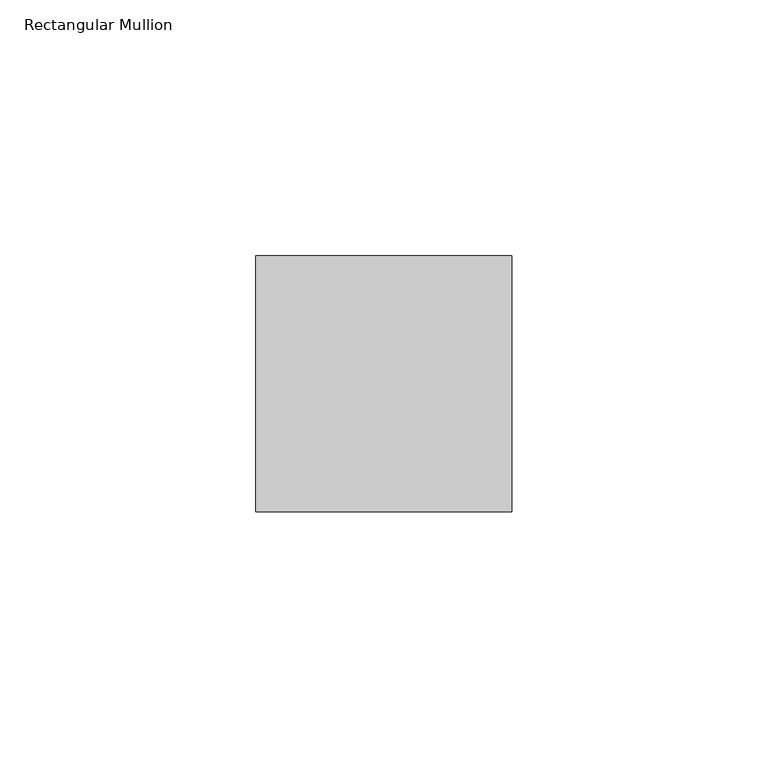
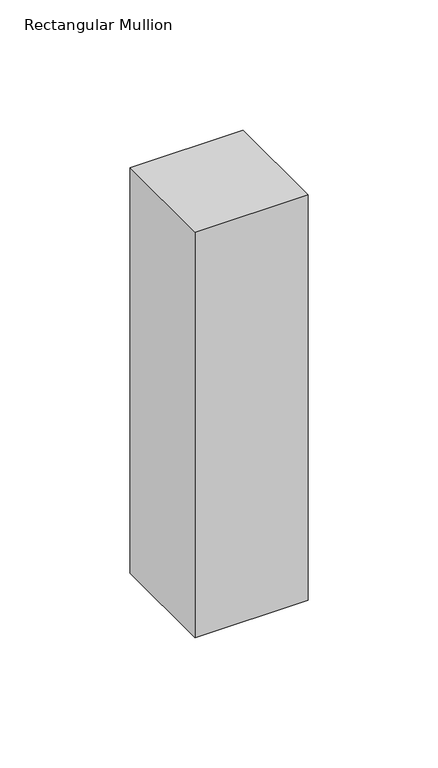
"""IFC4 building model written with IfcOpenShell, lengths in millimetres: member geometry, Rectangular Mullion : RSen_21_CWM_support profile 50x50 - right_gen_duco projects."""

from ifc_helpers import new_model, si_unit, frame, origin, place, context, project, spatial, polyline, outline, extrude, source, transform, mapped, element, save


def rectangular_mullion_66fc153d(model_context):
    return source(origin(), model_context, "Body", "SweptSolid", [
        extrude(outline(polyline([(-50.0, 1.0), (0.0, 1.0), (0.0, -49.0), (-50.0, -49.0), (-50.0, 1.0)])), frame((0.0, 0.0, -190.0), z_axis=(0.0, 0.0, 1.0), x_axis=(1.0, 0.0, 0.0)), (0.0, 0.0, 1.0), 190.0),
    ])


if __name__ == "__main__":
    model = new_model("IFC4")
    model_context = context("Model", 3, world=origin())
    ifc_project = project(units=[si_unit("LENGTHUNIT", "METRE", prefix="MILLI")], contexts=[model_context])
    site = spatial("IfcSite", under=ifc_project)
    building = spatial("IfcBuilding", under=site)
    placement = place(None, origin())
    rectangular_mullion_shape = rectangular_mullion_66fc153d(model_context)
    element("IfcMember", 1, ObjectType="Rectangular Mullion : RSen_21_CWM_support profile 50x50 - right_gen_duco projects", at=placement, inside=building, context=model_context, shape_type="MappedRepresentation", body=[
        mapped(rectangular_mullion_shape, transform((0.0, 0.0, 0.0), x_axis=(1.0, 0.0, 0.0), y_axis=(0.0, 1.0, 0.0), z_axis=(0.0, 0.0, 1.0))),
    ])
    save(model, "model.ifc")
